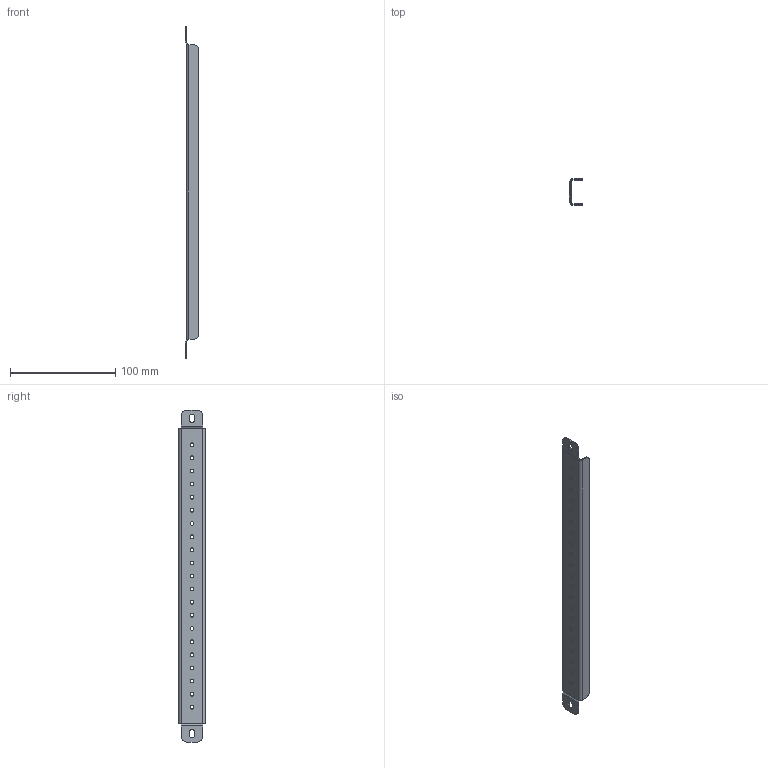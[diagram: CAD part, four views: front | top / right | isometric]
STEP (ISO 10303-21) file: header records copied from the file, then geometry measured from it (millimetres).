
FILE_DESCRIPTION (( 'STEP AP214' ), '1' );
FILE_NAME ('RGC 40.STEP', '2023-12-25T07:23:32', ( '' ), ( '' ), 'SwSTEP 2.0', 'SolidWorks 2019', '' );
FILE_SCHEMA (( 'AUTOMOTIVE_DESIGN' ));
Length unit declared in the file: millimetre
Products named in the file (1): RGC 40
Bounding box: 13.2 x 25 x 316 mm (x, y, z)
Volume: 15648.2 mm3; surface area: 27256.8 mm2
Topology: 1 solids, 1 shells, 114 faces, 292 edges, 180 vertices
Faces by surface type: cylinder 66, plane 48
Entity records: 3582 total; most frequent: DIRECTION 654, CARTESIAN_POINT 587, ORIENTED_EDGE 584, EDGE_CURVE 292, AXIS2_PLACEMENT_3D 247, VERTEX_POINT 180, EDGE_LOOP 160, LINE 160
